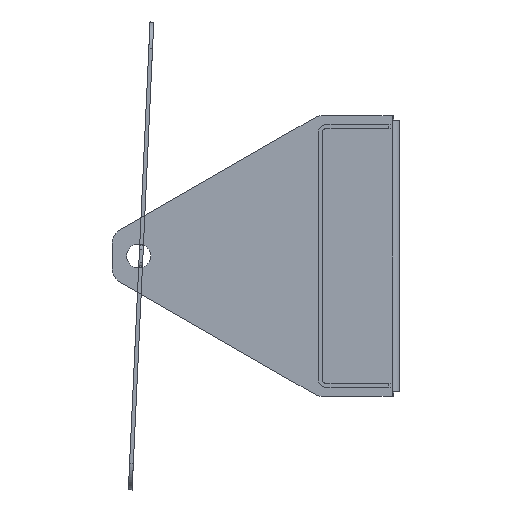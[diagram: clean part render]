
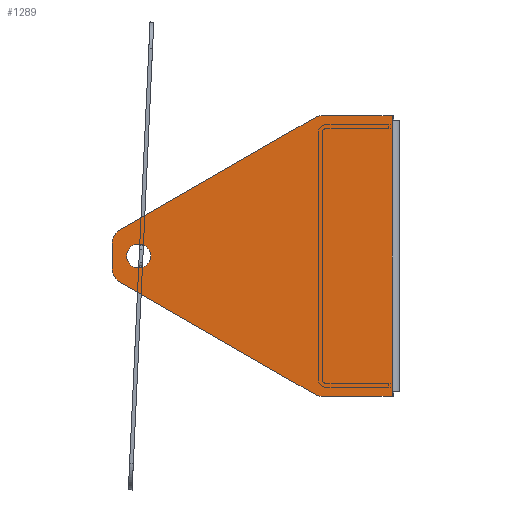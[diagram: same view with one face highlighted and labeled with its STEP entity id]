
A CAD part, left-side view. The second image highlights one B-rep face of the part: STEP entity #1289.
In plain terms, the highlighted planar face has unit normal (-1, 0, 0).
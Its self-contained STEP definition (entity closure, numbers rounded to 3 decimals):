
#256 = AXIS2_PLACEMENT_3D ( 'NONE', #3121, #3122, #3123 ) ;
#258 = AXIS2_PLACEMENT_3D ( 'NONE', #3135, #3136, #3137 ) ;
#260 = AXIS2_PLACEMENT_3D ( 'NONE', #3149, #3150, #3151 ) ;
#262 = AXIS2_PLACEMENT_3D ( 'NONE', #3507, #3508, #3509 ) ;
#263 = AXIS2_PLACEMENT_3D ( 'NONE', #3510, #3511, #3512 ) ;
#279 = AXIS2_PLACEMENT_3D ( 'NONE', #3606, #3607, #3608 ) ;
#388 = VERTEX_POINT ( 'NONE', #1962 ) ;
#391 = VERTEX_POINT ( 'NONE', #1965 ) ;
#799 = EDGE_LOOP ( 'NONE', ( #1189, #1190 ) ) ;
#800 = EDGE_LOOP ( 'NONE', ( #1191, #1192, #1193, #1194, #1195, #1196, #1197, #1198, #1199, #1200 ) ) ;
#844 = VERTEX_POINT ( 'NONE', #2063 ) ;
#846 = VERTEX_POINT ( 'NONE', #2065 ) ;
#847 = VERTEX_POINT ( 'NONE', #2066 ) ;
#848 = VERTEX_POINT ( 'NONE', #2067 ) ;
#849 = VERTEX_POINT ( 'NONE', #2068 ) ;
#850 = VERTEX_POINT ( 'NONE', #2069 ) ;
#851 = VERTEX_POINT ( 'NONE', #2070 ) ;
#856 = VERTEX_POINT ( 'NONE', #2075 ) ;
#867 = VERTEX_POINT ( 'NONE', #2086 ) ;
#869 = VERTEX_POINT ( 'NONE', #2696 ) ;
#1189 = ORIENTED_EDGE ( 'NONE', *, *, #1782, .T. ) ;
#1190 = ORIENTED_EDGE ( 'NONE', *, *, #2106, .T. ) ;
#1191 = ORIENTED_EDGE ( 'NONE', *, *, #1763, .T. ) ;
#1192 = ORIENTED_EDGE ( 'NONE', *, *, #1787, .T. ) ;
#1193 = ORIENTED_EDGE ( 'NONE', *, *, #1788, .F. ) ;
#1194 = ORIENTED_EDGE ( 'NONE', *, *, #1789, .T. ) ;
#1195 = ORIENTED_EDGE ( 'NONE', *, *, #1781, .T. ) ;
#1196 = ORIENTED_EDGE ( 'NONE', *, *, #1778, .T. ) ;
#1197 = ORIENTED_EDGE ( 'NONE', *, *, #1775, .T. ) ;
#1198 = ORIENTED_EDGE ( 'NONE', *, *, #1772, .T. ) ;
#1199 = ORIENTED_EDGE ( 'NONE', *, *, #1769, .T. ) ;
#1200 = ORIENTED_EDGE ( 'NONE', *, *, #1766, .T. ) ;
#1289 = ADVANCED_FACE ( 'NONE', ( #1550, #1552 ), #4322, .F. ) ;
#1550 = FACE_BOUND ( 'NONE', #799, .T. ) ;
#1552 = FACE_OUTER_BOUND ( 'NONE', #800, .T. ) ;
#1763 = EDGE_CURVE ( 'NONE', #850, #848, #3306, .T. ) ;
#1766 = EDGE_CURVE ( 'NONE', #849, #850, #3314, .T. ) ;
#1769 = EDGE_CURVE ( 'NONE', #851, #849, #3320, .T. ) ;
#1772 = EDGE_CURVE ( 'NONE', #847, #851, #3324, .T. ) ;
#1775 = EDGE_CURVE ( 'NONE', #844, #847, #3330, .T. ) ;
#1778 = EDGE_CURVE ( 'NONE', #846, #844, #3334, .T. ) ;
#1781 = EDGE_CURVE ( 'NONE', #869, #846, #3340, .T. ) ;
#1782 = EDGE_CURVE ( 'NONE', #391, #388, #3341, .T. ) ;
#1787 = EDGE_CURVE ( 'NONE', #848, #856, #3348, .T. ) ;
#1788 = EDGE_CURVE ( 'NONE', #867, #856, #3350, .T. ) ;
#1789 = EDGE_CURVE ( 'NONE', #867, #869, #3352, .T. ) ;
#1962 = CARTESIAN_POINT ( 'NONE',  ( -160.1, 65.944, 0. ) ) ;
#1965 = CARTESIAN_POINT ( 'NONE',  ( -160.1, 72.344, 0. ) ) ;
#2063 = CARTESIAN_POINT ( 'NONE',  ( -160.1, 74.144, 6.902 ) ) ;
#2065 = CARTESIAN_POINT ( 'NONE',  ( -160.1, 22.072, 36.966 ) ) ;
#2066 = CARTESIAN_POINT ( 'NONE',  ( -160.1, 76.144, 3.438 ) ) ;
#2067 = CARTESIAN_POINT ( 'NONE',  ( -160.1, 20.072, -37.502 ) ) ;
#2068 = CARTESIAN_POINT ( 'NONE',  ( -160.1, 74.144, -6.902 ) ) ;
#2069 = CARTESIAN_POINT ( 'NONE',  ( -160.1, 22.072, -36.966 ) ) ;
#2070 = CARTESIAN_POINT ( 'NONE',  ( -160.1, 76.144, -3.438 ) ) ;
#2075 = CARTESIAN_POINT ( 'NONE',  ( -160.1, 1.5, -37.502 ) ) ;
#2086 = CARTESIAN_POINT ( 'NONE',  ( -160.1, 1.5, 37.502 ) ) ;
#2106 = EDGE_CURVE ( 'NONE', #388, #391, #3403, .T. ) ;
#2280 = AXIS2_PLACEMENT_3D ( 'NONE', #4321, #4318, #4324 ) ;
#2696 = CARTESIAN_POINT ( 'NONE',  ( -160.1, 20.072, 37.502 ) ) ;
#3121 = CARTESIAN_POINT ( 'NONE',  ( -160.1, 20.072, -33.502 ) ) ;
#3122 = DIRECTION ( 'NONE',  ( -1., 0., 0. ) ) ;
#3123 = DIRECTION ( 'NONE',  ( 0., 0., -1. ) ) ;
#3125 = CARTESIAN_POINT ( 'NONE',  ( -160.1, 74.144, -6.902 ) ) ;
#3126 = DIRECTION ( 'NONE',  ( 0., -0.866, -0.5 ) ) ;
#3135 = CARTESIAN_POINT ( 'NONE',  ( -160.1, 72.144, -3.438 ) ) ;
#3136 = DIRECTION ( 'NONE',  ( -1., 0., 0. ) ) ;
#3137 = DIRECTION ( 'NONE',  ( 0., 0., -1. ) ) ;
#3139 = CARTESIAN_POINT ( 'NONE',  ( -160.1, 76.144, 0. ) ) ;
#3140 = DIRECTION ( 'NONE',  ( 0., 0., -1. ) ) ;
#3149 = CARTESIAN_POINT ( 'NONE',  ( -160.1, 72.144, 3.438 ) ) ;
#3150 = DIRECTION ( 'NONE',  ( -1., 0., 0. ) ) ;
#3151 = DIRECTION ( 'NONE',  ( 0., 0., -1. ) ) ;
#3306 = CIRCLE ( 'NONE', #256, 4. ) ;
#3314 = LINE ( 'NONE', #3125, #3317 ) ;
#3317 = VECTOR ( 'NONE', #3126, 1000. ) ;
#3320 = CIRCLE ( 'NONE', #258, 4. ) ;
#3324 = LINE ( 'NONE', #3139, #3327 ) ;
#3327 = VECTOR ( 'NONE', #3140, 1000. ) ;
#3330 = CIRCLE ( 'NONE', #260, 4. ) ;
#3334 = LINE ( 'NONE', #3499, #3337 ) ;
#3337 = VECTOR ( 'NONE', #3500, 1000. ) ;
#3340 = CIRCLE ( 'NONE', #262, 4. ) ;
#3341 = CIRCLE ( 'NONE', #263, 3.2 ) ;
#3348 = LINE ( 'NONE', #3522, #3351 ) ;
#3350 = LINE ( 'NONE', #3524, #3353 ) ;
#3351 = VECTOR ( 'NONE', #3523, 1000. ) ;
#3352 = LINE ( 'NONE', #3526, #3355 ) ;
#3353 = VECTOR ( 'NONE', #3525, 1000. ) ;
#3355 = VECTOR ( 'NONE', #3527, 1000. ) ;
#3403 = CIRCLE ( 'NONE', #279, 3.2 ) ;
#3499 = CARTESIAN_POINT ( 'NONE',  ( -160.1, 22.072, 36.966 ) ) ;
#3500 = DIRECTION ( 'NONE',  ( 0., 0.866, -0.5 ) ) ;
#3507 = CARTESIAN_POINT ( 'NONE',  ( -160.1, 20.072, 33.502 ) ) ;
#3508 = DIRECTION ( 'NONE',  ( -1., 0., 0. ) ) ;
#3509 = DIRECTION ( 'NONE',  ( 0., 0., -1. ) ) ;
#3510 = CARTESIAN_POINT ( 'NONE',  ( -160.1, 69.144, 0. ) ) ;
#3511 = DIRECTION ( 'NONE',  ( 1., 0., 0. ) ) ;
#3512 = DIRECTION ( 'NONE',  ( 0., 1., 0. ) ) ;
#3522 = CARTESIAN_POINT ( 'NONE',  ( -160.1, 38.822, -37.502 ) ) ;
#3523 = DIRECTION ( 'NONE',  ( 0., -1., 0. ) ) ;
#3524 = CARTESIAN_POINT ( 'NONE',  ( -160.1, 1.5, 0. ) ) ;
#3525 = DIRECTION ( 'NONE',  ( 0., 0., -1. ) ) ;
#3526 = CARTESIAN_POINT ( 'NONE',  ( -160.1, 38.822, 37.502 ) ) ;
#3527 = DIRECTION ( 'NONE',  ( 0., 1., 0. ) ) ;
#3606 = CARTESIAN_POINT ( 'NONE',  ( -160.1, 69.144, 0. ) ) ;
#3607 = DIRECTION ( 'NONE',  ( 1., 0., 0. ) ) ;
#3608 = DIRECTION ( 'NONE',  ( 0., 1., 0. ) ) ;
#4318 = DIRECTION ( 'NONE',  ( 1., 0., 0. ) ) ;
#4321 = CARTESIAN_POINT ( 'NONE',  ( -160.1, 76.144, -37.502 ) ) ;
#4322 = PLANE ( 'NONE',  #2280 ) ;
#4324 = DIRECTION ( 'NONE',  ( 0., 0., 1. ) ) ;
